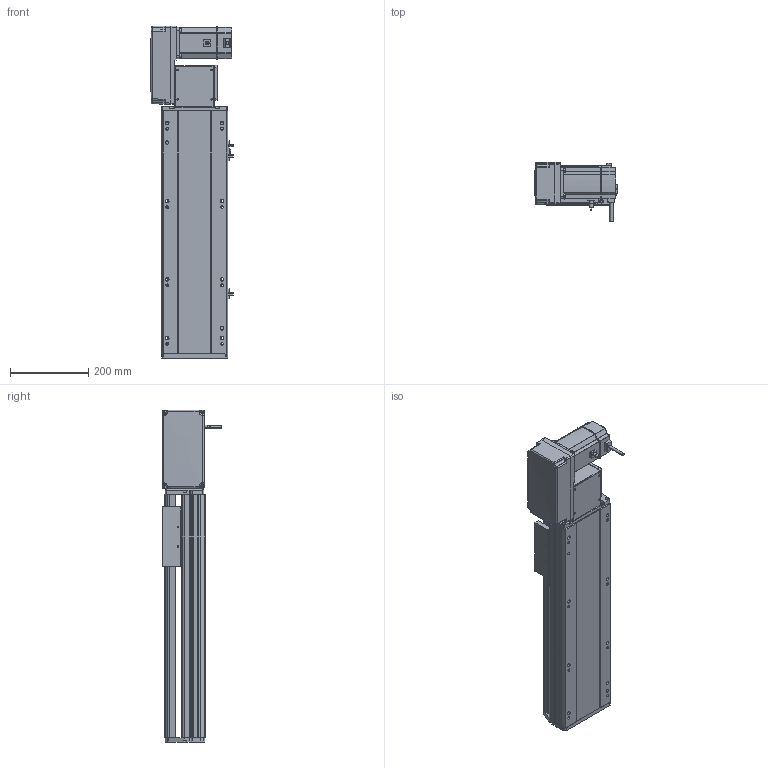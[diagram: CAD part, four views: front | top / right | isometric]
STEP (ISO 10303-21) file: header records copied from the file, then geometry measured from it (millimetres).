
FILE_DESCRIPTION (( 'STEP AP214' ), '1' );
FILE_NAME ('RTB17S-XX-350-L-M75-C4.STEP', '2025-12-12T00:08:11', ( '' ), ( '' ), 'SwSTEP 2.0', 'SolidWorks 2018', '' );
FILE_SCHEMA (( 'AUTOMOTIVE_DESIGN' ));
Length unit declared in the file: millimetre
Products named in the file (15): RTB17S-L-004-賑釱^RTB17S-賑釱_RTB17S-XX-XX-L-M75-C4; RMP17S-L-014-T20-P75--々湍釱^RTB17S-L-々湍釱蚾饜-750W_RTB17S-XX-XX-L-M75-C4; RTB22S-GY-017P^RTB17S-L-々湍釱蚾饜-750W_RTB17S-XX-XX-L-M75-C4; RTB17S-賑釱^RTB17S-XX-XX-L-M75-C4; RTH13-BL-012覜茼え俋离^RTB17S-賑釱_RTB17S-XX-XX-L-M75-C4; RTB17S-L-007奻裔^RTB17S-XX-XX-L-M75-C4; EE672^RTB17S-XX-XX-L-M75-C4; RTB17S-L-001-耜醱啣^RTB17S-XX-XX-L-M75-C4; RTB17-R-011菁釱^RTB17S-XX-XX-L-M75-C4; 750W萇儂^RTB17S-XX-XX-L-M75-C4; RTB22S-GY-008-M75--萇儂啣^RTB17S-L-々湍釱蚾饜-750W_RTB17S-XX-XX-L-M75-C4; RTB17S-XX-350-L-M75-C4; RTB22S-GY-018P^RTB17S-L-々湍釱蚾饜-750W_RTB17S-XX-XX-L-M75-C4; RTB17S-L-々湍釱蚾饜-750W^RTB17S-XX-XX-L-M75-C4; RTB22S-GY-005P^RTB17S-L-々湍釱蚾饜-750W_RTB17S-XX-XX-L-M75-C4
Assembly tree (17 placements, depth 3):
  RTB17S-XX-350-L-M75-C4
    RTB17-R-011菁釱^RTB17S-XX-XX-L-M75-C4
    EE672^RTB17S-XX-XX-L-M75-C4  x3
    RTB17S-L-001-耜醱啣^RTB17S-XX-XX-L-M75-C4
    RTB17S-賑釱^RTB17S-XX-XX-L-M75-C4
      RTB17S-L-004-賑釱^RTB17S-賑釱_RTB17S-XX-XX-L-M75-C4
      RTH13-BL-012覜茼え俋离^RTB17S-賑釱_RTB17S-XX-XX-L-M75-C4
    RTB17S-L-007奻裔^RTB17S-XX-XX-L-M75-C4
    750W萇儂^RTB17S-XX-XX-L-M75-C4
    RTB17S-L-々湍釱蚾饜-750W^RTB17S-XX-XX-L-M75-C4
      RMP17S-L-014-T20-P75--々湍釱^RTB17S-L-々湍釱蚾饜-750W_RTB17S-XX-XX-L-M75-C4
      RTB22S-GY-005P^RTB17S-L-々湍釱蚾饜-750W_RTB17S-XX-XX-L-M75-C4
      RTB22S-GY-017P^RTB17S-L-々湍釱蚾饜-750W_RTB17S-XX-XX-L-M75-C4  x2
      RTB22S-GY-008-M75--萇儂啣^RTB17S-L-々湍釱蚾饜-750W_RTB17S-XX-XX-L-M75-C4
      RTB22S-GY-018P^RTB17S-L-々湍釱蚾饜-750W_RTB17S-XX-XX-L-M75-C4
Bounding box: 210.4 x 152.7 x 849 mm (x, y, z)
Volume: 8137885.8 mm3; surface area: 1272505.1 mm2
Topology: 17 solids, 17 shells, 2041 faces, 5620 edges, 3626 vertices
Faces by surface type: plane 964, cylinder 661, bspline 294, cone 110, sphere 8, torus 4
Entity records: 55798 total; most frequent: CARTESIAN_POINT 16284, ORIENTED_EDGE 8084, DIRECTION 7592, EDGE_CURVE 4042, AXIS2_PLACEMENT_3D 2646, VERTEX_POINT 2630, LINE 2300, VECTOR 2300
